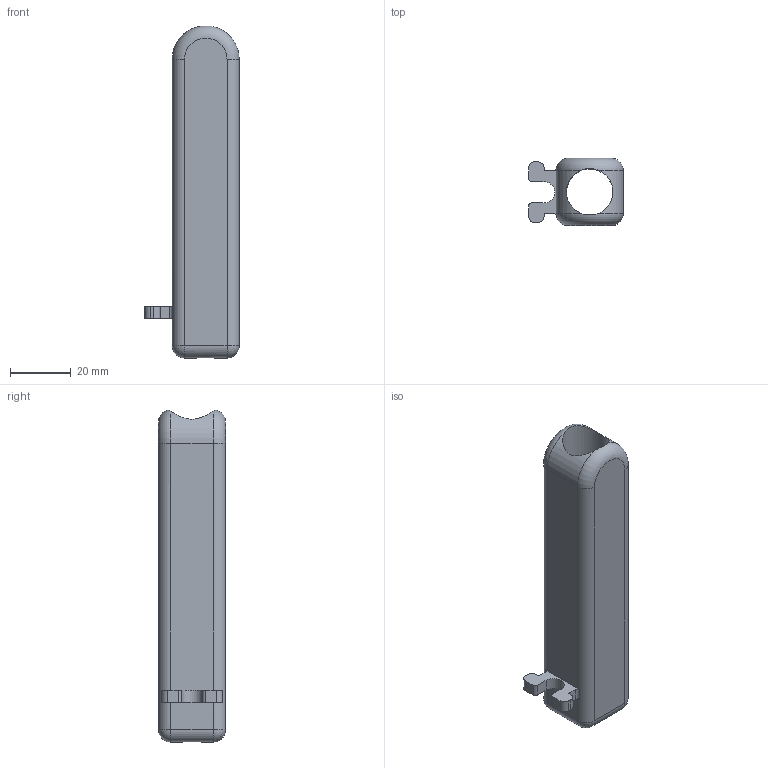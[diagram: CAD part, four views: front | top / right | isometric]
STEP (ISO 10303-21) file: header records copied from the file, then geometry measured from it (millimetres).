
FILE_DESCRIPTION(/* description */ (''),/* implementation_level */ '2;1');
FILE_NAME(/* name */ 'C:/Users/Owner/Desktop/K-CAD Songbird PM4 Centerfire/STEP/Barrels/Barrel Type 3/Barrel Type 3 0.6 inch ID.step',/* time_stamp */ '2020-12-05T21:29:34-05:00',/* author */ (''),/* organization */ (''),/* preprocessor_version */ 'ST-DEVELOPER v18.1',/* originating_system */ 'Autodesk Translation Framework v9.3.0.1241',/* authorisation */ '');
FILE_SCHEMA (('AUTOMOTIVE_DESIGN { 1 0 10303 214 3 1 1 }'));
Length unit declared in the file: inch
Products named in the file (1): Barrel Type 3 0.6 inch ID
Bounding box: 31 x 22 x 108.95 mm (x, y, z)
Volume: 30429.9 mm3; surface area: 14410.9 mm2
Topology: 1 solids, 1 shells, 47 faces, 128 edges, 80 vertices
Faces by surface type: plane 21, cylinder 20, sphere 4, torus 2
Full cylindrical faces by diameter (mm): 15.24 x1
Entity records: 1595 total; most frequent: CARTESIAN_POINT 345, DIRECTION 263, ORIENTED_EDGE 254, EDGE_CURVE 127, AXIS2_PLACEMENT_3D 98, VERTEX_POINT 80, LINE 67, VECTOR 67
